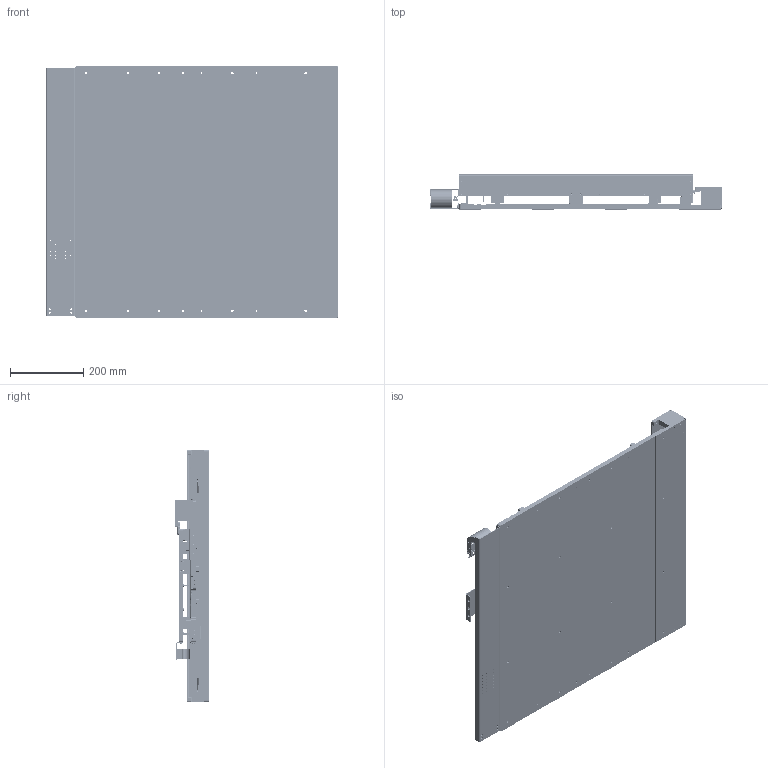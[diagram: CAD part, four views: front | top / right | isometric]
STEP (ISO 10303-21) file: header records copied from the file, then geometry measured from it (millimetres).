
FILE_DESCRIPTION (( 'STEP AP203' ), '1' );
FILE_NAME ('MSL-300-380-RX_defeature.STEP', '2022-10-04T07:44:34', ( '' ), ( '' ), 'SwSTEP 2.0', 'SolidWorks 2019', '' );
FILE_SCHEMA (( 'CONFIG_CONTROL_DESIGN' ));
Products named in the file (1): MSL-300-380-RX_defeature
Bounding box: 799 x 95 x 690 mm (x, y, z)
Volume: 12903786.1 mm3; surface area: 3043753.7 mm2
Topology: 98 solids, 98 shells, 5650 faces, 14405 edges, 8812 vertices
Faces by surface type: cylinder 2602, plane 2302, cone 634, sphere 112
Entity records: 168408 total; most frequent: DIRECTION 30675, CARTESIAN_POINT 28388, ORIENTED_EDGE 27674, EDGE_CURVE 13837, AXIS2_PLACEMENT_3D 11211, VERTEX_POINT 8812, LINE 8253, VECTOR 8253
